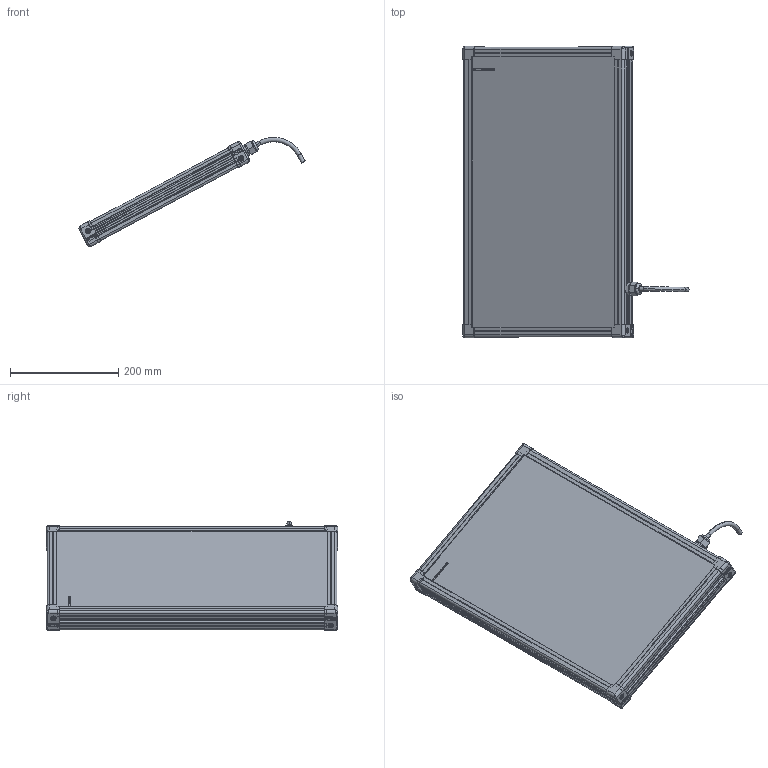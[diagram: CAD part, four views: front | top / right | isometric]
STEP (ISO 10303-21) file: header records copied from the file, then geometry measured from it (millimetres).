
FILE_DESCRIPTION (( 'STEP AP214' ), '1' );
FILE_NAME ('EFFI-BL-300-500-ZZZ 1x M12P.STEP', '2021-06-18T10:52:58', ( '' ), ( '' ), 'SwSTEP 2.0', 'SolidWorks 2021', '' );
FILE_SCHEMA (( 'AUTOMOTIVE_DESIGN' ));
Length unit declared in the file: millimetre
Products named in the file (9): petite joue + vis; profile Y_PERCE; M12 power_AVEC CABLE D8.1; Pièce13^EFFI-BL-XXX-YYY-ZZZ -1M12POWER; 000629; petite joue; EFFI-BL-300-500-ZZZ 1x M12P; profile X_PERCE
Assembly tree (13 placements, depth 3):
  EFFI-BL-300-500-ZZZ 1x M12P
    profile X_PERCE  x2
    profile Y_PERCE
    profile Y_PERCE
    Pièce13^EFFI-BL-XXX-YYY-ZZZ -1M12POWER
    petite joue + vis  x4
      petite joue
      000629
    M12 power_AVEC CABLE D8.1
Bounding box: 417.93 x 539 x 201.99 mm (x, y, z)
Volume: 6332778.8 mm3; surface area: 626895 mm2
Topology: 17 solids, 20 shells, 3578 faces, 9609 edges, 6361 vertices
Faces by surface type: plane 2380, bspline 591, cylinder 583, cone 20, torus 4
Entity records: 49711 total; most frequent: CARTESIAN_POINT 21554, ORIENTED_EDGE 6036, DIRECTION 4529, EDGE_CURVE 3020, VECTOR 2261, LINE 2261, VERTEX_POINT 2008, EDGE_LOOP 1222
